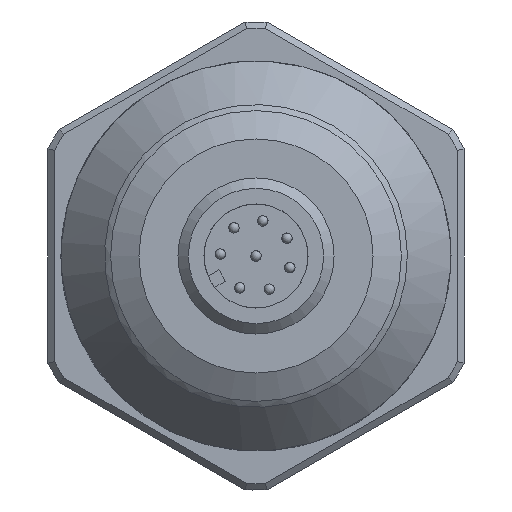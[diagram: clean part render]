
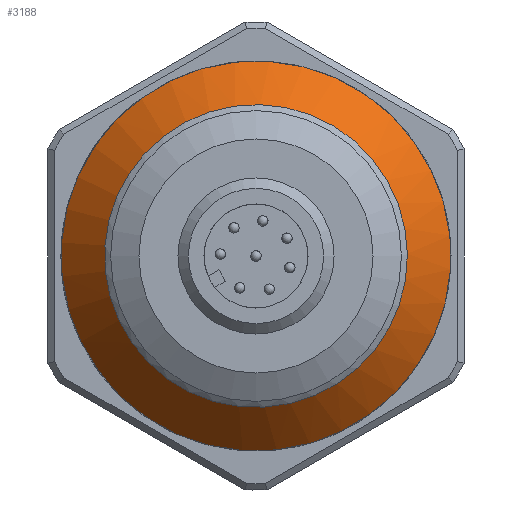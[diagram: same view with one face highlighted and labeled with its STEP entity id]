
A CAD part, front view. The second image highlights one B-rep face of the part: STEP entity #3188.
In plain terms, the highlighted conical face has half-angle 40 degrees and reference radius 15 mm.
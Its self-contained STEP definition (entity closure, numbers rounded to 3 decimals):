
#46=CONICAL_SURFACE('',#3429,15.,0.698);
#1417=ORIENTED_EDGE('',*,*,#1984,.T.);
#1418=ORIENTED_EDGE('',*,*,#1985,.F.);
#1984=EDGE_CURVE('',#2298,#2298,#2394,.T.);
#1985=EDGE_CURVE('',#2299,#2299,#2395,.T.);
#2298=VERTEX_POINT('',#7806);
#2299=VERTEX_POINT('',#7808);
#2394=CIRCLE('',#3430,11.644);
#2395=CIRCLE('',#3431,15.);
#2623=EDGE_LOOP('',(#1417));
#2624=EDGE_LOOP('',(#1418));
#2891=FACE_BOUND('',#2623,.T.);
#2892=FACE_BOUND('',#2624,.T.);
#3188=ADVANCED_FACE('',(#2891,#2892),#46,.T.);
#3429=AXIS2_PLACEMENT_3D('',#7804,#3996,#3997);
#3430=AXIS2_PLACEMENT_3D('',#7805,#3998,#3999);
#3431=AXIS2_PLACEMENT_3D('',#7807,#4000,#4001);
#3996=DIRECTION('',(0.,1.,0.));
#3997=DIRECTION('',(-0.998,0.,0.069));
#3998=DIRECTION('',(0.,1.,0.));
#3999=DIRECTION('',(-0.998,0.,0.069));
#4000=DIRECTION('',(0.,1.,0.));
#4001=DIRECTION('',(-0.998,0.,0.069));
#7804=CARTESIAN_POINT('',(0.,-33.3,0.));
#7805=CARTESIAN_POINT('',(0.,-37.3,0.));
#7806=CARTESIAN_POINT('',(-11.616,-37.3,0.801));
#7807=CARTESIAN_POINT('',(0.,-33.3,0.));
#7808=CARTESIAN_POINT('',(-14.964,-33.3,1.032));
